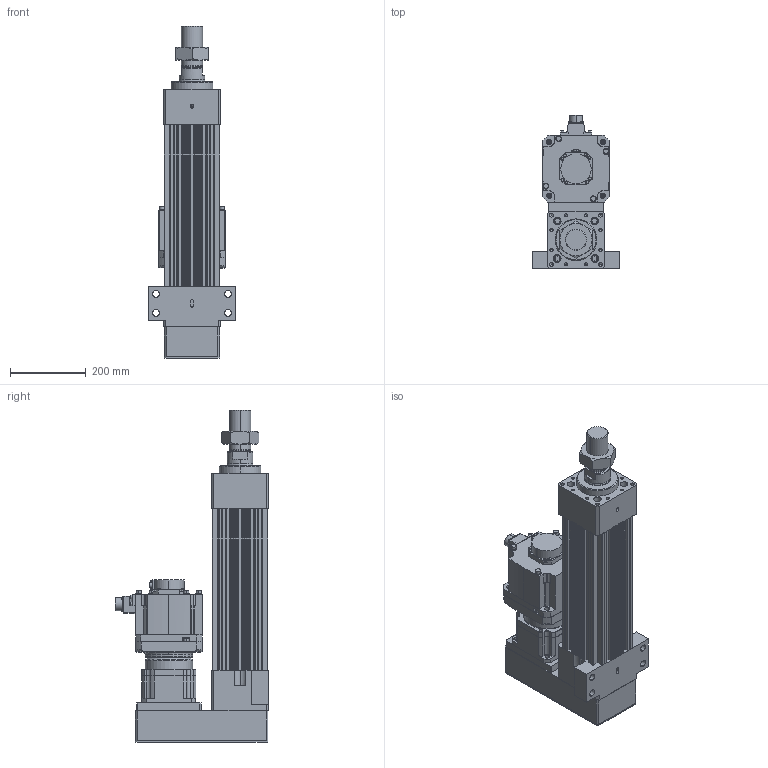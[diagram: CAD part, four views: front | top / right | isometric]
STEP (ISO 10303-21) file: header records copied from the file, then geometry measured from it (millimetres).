
FILE_DESCRIPTION (( 'STEP AP203' ), '1' );
FILE_NAME ('HES150NS(HS)-P150-W035G00-M-FFC.STEP', '2023-01-31T09:25:56', ( 'tms' ), ( '' ), 'SwSTEP 2.0', 'SolidWorks 2013', '' );
FILE_SCHEMA (( 'CONFIG_CONTROL_DESIGN' ));
Length unit declared in the file: millimetre
Products named in the file (9): P0403500801; P1301500001; HES150-P150-G142-FFC; HES150NS(HS)-P150-W035G00-M-FFC; AB1421; HG-SR352; AB142-003[HG-SR352]; HES150 ROD M ST150; M56X2.0P
Assembly tree (8 placements, depth 3):
  HES150NS(HS)-P150-W035G00-M-FFC
    HES150-P150-G142-FFC
    HES150 ROD M ST150
    M56X2.0P
    AB142-003[HG-SR352]
      AB1421
      P1301500001
      P0403500801
    HG-SR352
Bounding box: 230 x 403.85 x 876 mm (x, y, z)
Volume: 16586570.1 mm3; surface area: 1551506 mm2
Topology: 4 solids, 18 shells, 1470 faces, 3831 edges, 2471 vertices
Faces by surface type: cylinder 693, plane 529, cone 166, bspline 76, torus 6
Entity records: 53945 total; most frequent: CARTESIAN_POINT 16549, DIRECTION 7839, ORIENTED_EDGE 7520, EDGE_CURVE 3782, AXIS2_PLACEMENT_3D 2986, VERTEX_POINT 2471, LINE 1867, VECTOR 1867
